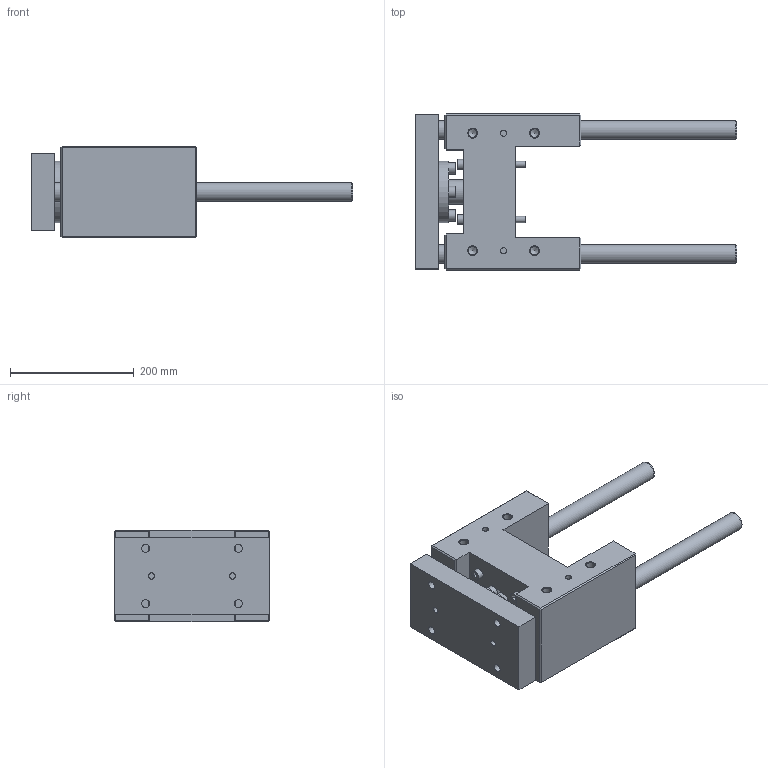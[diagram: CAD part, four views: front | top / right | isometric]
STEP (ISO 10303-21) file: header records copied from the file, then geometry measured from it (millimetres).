
FILE_DESCRIPTION( ( 'STEP AP214' ), '1' );
FILE_NAME( 'U:/Etudes/Top Solid/BIBLIO 3D AVM/TOP/PNEUMATIQUE/GUIDAGES/Type 32 (en H)/R_Renforcée/329R4230.step', '2005-05-27T09:25:07', ( ' ' ), ( ' ' ), 'XStep 1.0', ' ', ' ' );
FILE_SCHEMA( ( 'automotive_design' ) );
Length unit declared in the file: metre
Products named in the file (2): 1; 2
Bounding box: 520 x 252 x 148 mm (x, y, z)
Volume: 6658385.9 mm3; surface area: 552076.5 mm2
Topology: 2 solids, 7 shells, 239 faces, 527 edges, 341 vertices
Faces by surface type: plane 149, cylinder 69, cone 21
Full cylindrical faces by diameter (mm): 10 x12, 10.106 x4, 11 x4, 12 x8, 13 x8, 13.835 x8, 16 x4, 18 x4, 18.376 x2, 20 x4, 30 x4, 39 x1, 42 x1, 55 x1, 57 x1, 60 x1, 65 x1, 100 x1
Entity records: 7933 total; most frequent: CARTESIAN_POINT 1201, DIRECTION 1000, ORIENTED_EDGE 786, EDGE_CURVE 393, EDGE_LOOP 392, AXIS2_PLACEMENT_3D 374, FACE_OUTER_BOUND 308, VERTEX_POINT 303
